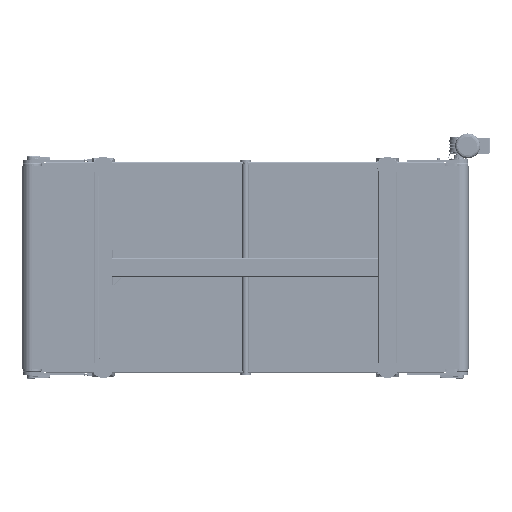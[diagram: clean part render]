
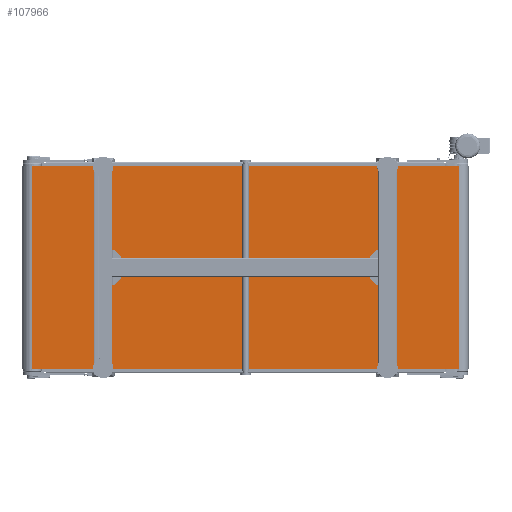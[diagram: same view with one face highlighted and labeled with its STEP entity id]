
A CAD part, front view. The second image highlights one B-rep face of the part: STEP entity #107966.
In plain terms, the highlighted planar face has unit normal (0, -1, 0).
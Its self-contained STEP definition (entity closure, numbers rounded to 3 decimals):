
#11976 = EDGE_LOOP ( 'NONE', ( #199951, #110567, #71352, #117876 ) ) ;
#15373 = VERTEX_POINT ( 'NONE', #27320 ) ;
#16390 = LINE ( 'NONE', #109715, #22947 ) ;
#22947 = VECTOR ( 'NONE', #236109, 1000. ) ;
#27320 = CARTESIAN_POINT ( 'NONE',  ( 1050., -49.5, 500. ) ) ;
#28297 = CARTESIAN_POINT ( 'NONE',  ( -1050., -49.5, -500. ) ) ;
#36339 = VERTEX_POINT ( 'NONE', #250751 ) ;
#38932 = AXIS2_PLACEMENT_3D ( 'NONE', #100639, #184467, #59311 ) ;
#45194 = CARTESIAN_POINT ( 'NONE',  ( -1050., -49.5, 500. ) ) ;
#51214 = VECTOR ( 'NONE', #208861, 1000. ) ;
#59311 = DIRECTION ( 'NONE',  ( 0., 0., 1. ) ) ;
#63120 = LINE ( 'NONE', #45194, #51214 ) ;
#71352 = ORIENTED_EDGE ( 'NONE', *, *, #121196, .F. ) ;
#73727 = VERTEX_POINT ( 'NONE', #175824 ) ;
#76221 = EDGE_CURVE ( 'NONE', #73727, #196707, #63120, .T. ) ;
#76944 = DIRECTION ( 'NONE',  ( 0., 0., -1. ) ) ;
#88502 = VECTOR ( 'NONE', #76944, 1000. ) ;
#100639 = CARTESIAN_POINT ( 'NONE',  ( -1050., -49.5, 500. ) ) ;
#107966 = ADVANCED_FACE ( 'NONE', ( #121254 ), #205070, .F. ) ;
#109715 = CARTESIAN_POINT ( 'NONE',  ( -1050., -49.5, 500. ) ) ;
#110567 = ORIENTED_EDGE ( 'NONE', *, *, #151496, .F. ) ;
#112177 = DIRECTION ( 'NONE',  ( 1., 0., 0. ) ) ;
#117876 = ORIENTED_EDGE ( 'NONE', *, *, #76221, .T. ) ;
#121196 = EDGE_CURVE ( 'NONE', #73727, #15373, #16390, .T. ) ;
#121254 = FACE_OUTER_BOUND ( 'NONE', #11976, .T. ) ;
#132815 = LINE ( 'NONE', #28297, #270733 ) ;
#138925 = EDGE_CURVE ( 'NONE', #196707, #36339, #132815, .T. ) ;
#151496 = EDGE_CURVE ( 'NONE', #15373, #36339, #265240, .T. ) ;
#167752 = CARTESIAN_POINT ( 'NONE',  ( -1050., -49.5, -500. ) ) ;
#175824 = CARTESIAN_POINT ( 'NONE',  ( -1050., -49.5, 500. ) ) ;
#184467 = DIRECTION ( 'NONE',  ( 0., 1., 0. ) ) ;
#196707 = VERTEX_POINT ( 'NONE', #167752 ) ;
#199951 = ORIENTED_EDGE ( 'NONE', *, *, #138925, .T. ) ;
#203366 = CARTESIAN_POINT ( 'NONE',  ( 1050., -49.5, 500. ) ) ;
#205070 = PLANE ( 'NONE',  #38932 ) ;
#208861 = DIRECTION ( 'NONE',  ( 0., 0., -1. ) ) ;
#236109 = DIRECTION ( 'NONE',  ( 1., 0., 0. ) ) ;
#250751 = CARTESIAN_POINT ( 'NONE',  ( 1050., -49.5, -500. ) ) ;
#265240 = LINE ( 'NONE', #203366, #88502 ) ;
#270733 = VECTOR ( 'NONE', #112177, 1000. ) ;
